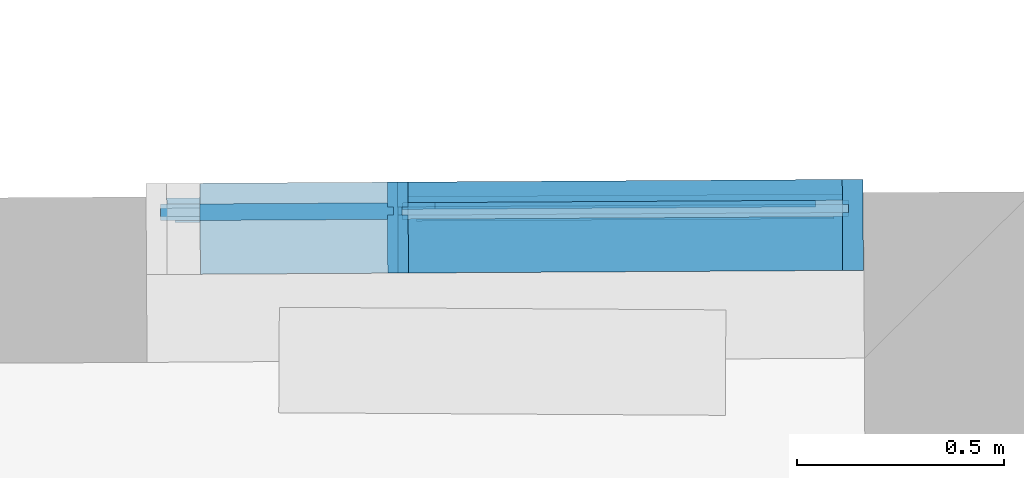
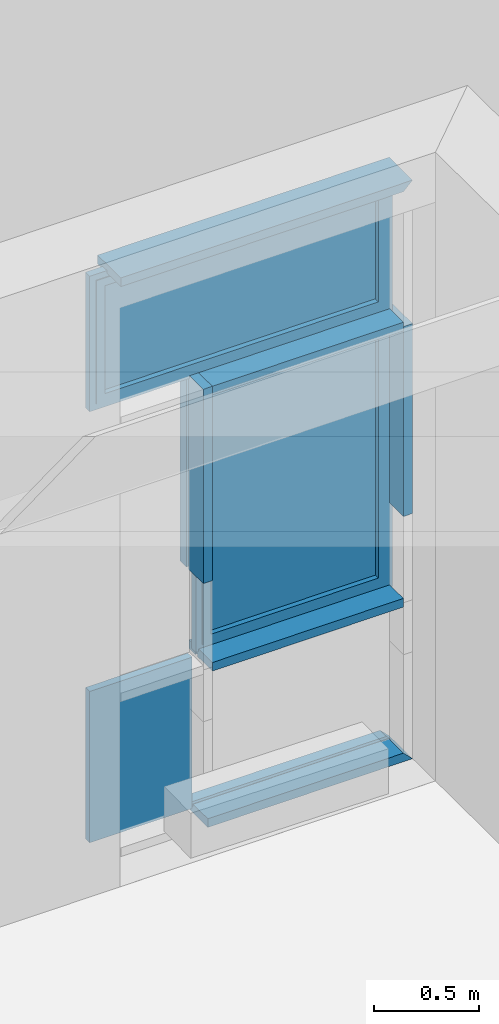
# One storey, part 134 of 196: 11 building element parts, 1 element without a shape of its own.
"""IFC2X3 building model written with IfcOpenShell, lengths in metres."""

import ifcopenshell
import ifcopenshell.guid

model = None  # the IFC model being written
_history = None  # IfcOwnerHistory: only IFC2X3 demands one
_inside = {}  # id of a spatial element -> (the spatial element, [elements in it])
_under = {}  # id of a project, library or spatial element -> (it, [spatial elements below it])
_declared = {}  # id of a project -> (the project, [libraries it declares])
_typed = {}  # id of a type object -> (the type object, [elements of that type])
_made_of = {}  # id of a material, layer set ... -> (it, [elements and type objects made of it])


def new_model(schema):
    """Start an empty IFC model of exactly this schema.

    Asked for "IFC4X3", IfcOpenShell would pick the latest addendum, in which some entities
    have other attributes; the version numbers below select the first issue.
    IFC2X3 requires an IfcOwnerHistory on every rooted entity: one is made here for all.
    """
    global model, _history
    if schema == "IFC4X3":
        model = ifcopenshell.file(schema_version=(4, 3, 0, 0))
    else:
        model = ifcopenshell.file(schema=schema)
    _inside.clear()
    _under.clear()
    _declared.clear()
    _typed.clear()
    _made_of.clear()
    _history = None
    if model.schema == "IFC2X3":
        org = make("IfcOrganization", Name="unknown")
        user = make(
            "IfcPersonAndOrganization",
            ThePerson=make("IfcPerson", FamilyName="unknown"),
            TheOrganization=org,
        )
        app = make(
            "IfcApplication",
            ApplicationDeveloper=org,
            Version="unknown",
            ApplicationFullName="unknown",
            ApplicationIdentifier="unknown",
        )
        _history = make(
            "IfcOwnerHistory",
            OwningUser=user,
            OwningApplication=app,
            ChangeAction="ADDED",
            CreationDate=0,
        )
    return model


def make(cls, **values):
    """One entity of the class cls with the attributes given. An attribute that is None is left unset."""
    return model.create_entity(
        cls, **{name: value for name, value in values.items() if value is not None}
    )


def entity(cls, *values):
    """Any entity or typed value of the class cls, its attributes in the order of the schema. None: left unset."""
    e = model.create_entity(cls)
    for i, value in enumerate(values):
        if value is not None:
            e[i] = value
    return e


def rooted(cls, **values):
    """An entity with a GlobalId (a new one), such as an element, a storey or a relation."""
    return make(cls, GlobalId=ifcopenshell.guid.new(), OwnerHistory=_history, **values)


def si_unit(unit_type, name, prefix=None):
    """IfcSIUnit, for example si_unit("LENGTHUNIT", "METRE", prefix="MILLI")."""
    return make("IfcSIUnit", UnitType=unit_type, Prefix=prefix, Name=name)


def converted_unit(unit_type, name, factor, base, dimensions=None, offset=None):
    """IfcConversionBasedUnit, such as the inch: factor (a typed value) times the base unit."""
    return make(
        "IfcConversionBasedUnit"
        if offset is None
        else "IfcConversionBasedUnitWithOffset",
        ConversionOffset=offset,
        Dimensions=None
        if dimensions is None
        else entity("IfcDimensionalExponents", *dimensions),
        UnitType=unit_type,
        Name=name,
        ConversionFactor=make(
            "IfcMeasureWithUnit", ValueComponent=factor, UnitComponent=base
        ),
    )


def derived_unit(unit_type, elements):
    """IfcDerivedUnit: a product of units, each with its exponent."""
    return make(
        "IfcDerivedUnit",
        Elements=[
            make("IfcDerivedUnitElement", Unit=unit, Exponent=power)
            for unit, power in elements
        ],
        UnitType=unit_type,
    )


def money_unit(currency):
    """IfcMonetaryUnit."""
    return make("IfcMonetaryUnit", Currency=currency)


def assignment(units):
    """IfcUnitAssignment: the units of a project."""
    return None if units is None else make("IfcUnitAssignment", Units=units)


def point(xyz):
    """IfcCartesianPoint."""
    return None if xyz is None else make("IfcCartesianPoint", Coordinates=xyz)


def direction(xyz):
    """IfcDirection."""
    return None if xyz is None else make("IfcDirection", DirectionRatios=xyz)


def frame(location, z_axis=None, x_axis=None):
    """IfcAxis2Placement3D, a coordinate frame: its origin and axes. An axis left out is left unset."""
    return make(
        "IfcAxis2Placement3D",
        Location=point(location),
        Axis=direction(z_axis),
        RefDirection=direction(x_axis),
    )


def origin_with_axes():
    """The frame at (0, 0, 0) with the z axis (0, 0, 1) and the x axis (1, 0, 0) written out."""
    return frame((0.0, 0.0, 0.0), z_axis=(0.0, 0.0, 1.0), x_axis=(1.0, 0.0, 0.0))


def place(relative_to, where):
    """IfcLocalPlacement: puts the frame where relative to a parent placement (None: the world)."""
    return make(
        "IfcLocalPlacement", PlacementRelTo=relative_to, RelativePlacement=where
    )


def context(
    kind, dimensions, precision=None, world=None, true_north=None, identifier=None
):
    """IfcGeometricRepresentationContext, for example the 3D "Model" context."""
    return make(
        "IfcGeometricRepresentationContext",
        ContextIdentifier=identifier,
        ContextType=kind,
        CoordinateSpaceDimension=dimensions,
        Precision=precision,
        WorldCoordinateSystem=world,
        TrueNorth=true_north,
    )


def subcontext(parent, identifier, kind, view, scale=None):
    """IfcGeometricRepresentationSubContext, for example "Body" below "Model"."""
    return make(
        "IfcGeometricRepresentationSubContext",
        ContextIdentifier=identifier,
        ContextType=kind,
        ParentContext=parent,
        TargetScale=scale,
        TargetView=view,
    )


def project(units=None, contexts=None):
    """IfcProject with its units and contexts."""
    return rooted(
        "IfcProject",
        Name="project",
        RepresentationContexts=contexts,
        UnitsInContext=assignment(units),
    )


def spatial(cls, under=None, at=None, **own):
    """A site, building, storey or space (cls), placed at a placement, below another one or the project."""
    s = rooted(cls, ObjectPlacement=at, **own)
    if under is not None:
        _under.setdefault(under.id(), (under, []))[1].append(s)
    return s


def faces_of(points, faces, orient=None, outer=None):
    """IfcFace entities. A face is a list of loops; a loop is a list of indices into points, from 0.

    orient and outer hold one flag for each loop. By default every Orientation is true, the
    first loop of a face is its IfcFaceOuterBound and the others are IfcFaceBound.
    """
    made = []
    for i, loops in enumerate(faces):
        bounds = []
        for j, loop in enumerate(loops):
            is_outer = j == 0 if outer is None else outer[i][j]
            bounds.append(
                make(
                    "IfcFaceOuterBound" if is_outer else "IfcFaceBound",
                    Bound=make("IfcPolyLoop", Polygon=[points[k] for k in loop]),
                    Orientation=True if orient is None else orient[i][j],
                )
            )
        made.append(make("IfcFace", Bounds=bounds))
    return made


def faceted_brep(points, faces, orient=None, outer=None, voids=None):
    """IfcFacetedBrep: a solid bounded by flat faces; with voids (closed shells), ...WithVoids."""
    shared = [point(p) for p in points]
    hull = make("IfcClosedShell", CfsFaces=faces_of(shared, faces, orient, outer))
    if voids is None:
        return make("IfcFacetedBrep", Outer=hull)
    return make(
        "IfcFacetedBrepWithVoids",
        Outer=hull,
        Voids=[
            make(cls, CfsFaces=faces_of(shared, fs, o, b)) for cls, fs, o, b in voids
        ],
    )


def shape(context_of_items, identifier, shape_type, items):
    """IfcShapeRepresentation: the items that make up one representation, for example the "Body"."""
    return make(
        "IfcShapeRepresentation",
        ContextOfItems=context_of_items,
        RepresentationIdentifier=identifier,
        RepresentationType=shape_type,
        Items=items,
    )


def material(Name=None, Category=None):
    """IfcMaterial."""
    return make("IfcMaterial", Name=Name, Category=Category)


def made_of(thing, what):
    """Note that an element or type object is made of a material, layer set ...; save() writes the relation."""
    if what is not None:
        _made_of.setdefault(what.id(), (what, []))[1].append(thing)
    return thing


def type_object(cls, material=None, **own):
    """A type object (cls), such as IfcWallType, which elements share."""
    return made_of(rooted(cls, **own), material)


def element(
    cls,
    number,
    at=None,
    inside=None,
    cuts=None,
    type_object=None,
    material=None,
    context=None,
    identifier="Body",
    shape_type=None,
    held_by="IfcProductDefinitionShape",
    body=None,
    shapes=None,
    **own,
):
    """One element of the class cls, such as IfcWall. Its Tag is "e" and its number.

    at: its placement. inside: the storey or other place that contains it. cuts: it is an
    opening in that element (IfcRelVoidsElement). A single representation is given by context,
    identifier, shape_type and body (its items); several are given by shapes. held_by: the class
    of the entity that holds the representations. save() writes the other relations.
    """
    e = rooted(cls, Tag="e%d" % number, ObjectPlacement=at, **own)
    if body is not None:
        shapes = [shape(context, identifier, shape_type, body)]
    if shapes is not None:
        e.Representation = make(held_by, Representations=shapes)
    if inside is not None:
        _inside.setdefault(inside.id(), (inside, []))[1].append(e)
    if cuts is not None:
        rooted(
            "IfcRelVoidsElement", RelatingBuildingElement=cuts, RelatedOpeningElement=e
        )
    if type_object is not None:
        _typed.setdefault(type_object.id(), (type_object, []))[1].append(e)
    return made_of(e, material)


def aggregate(whole, parts):
    """IfcRelAggregates: a whole, such as a stair, and the parts it consists of."""
    return rooted("IfcRelAggregates", RelatingObject=whole, RelatedObjects=parts)


def save(model, path):
    """Write the relations noted so far, then the file.

    IfcRelAggregates (storeys below a building ...), IfcRelContainedInSpatialStructure (elements
    in a storey), IfcRelDefinesByType, IfcRelAssociatesMaterial and IfcRelDeclares: one each for
    every whole, place, type object, material and project.
    """
    for whole, parts in _under.values():
        aggregate(whole, parts)
    for where, things in _inside.values():
        rooted(
            "IfcRelContainedInSpatialStructure",
            RelatedElements=things,
            RelatingStructure=where,
        )
    for kind, things in _typed.values():
        rooted("IfcRelDefinesByType", RelatedObjects=things, RelatingType=kind)
    for what, things in _made_of.values():
        rooted("IfcRelAssociatesMaterial", RelatedObjects=things, RelatingMaterial=what)
    for by, libraries in _declared.values():
        rooted("IfcRelDeclares", RelatingContext=by, RelatedDefinitions=libraries)
    model.write(path)


model = new_model("IFC2X3")

# Units and contexts
model_context = context("Model", 3, precision=1e-05, world=origin_with_axes(), true_north=direction((0.0, 1.0)))
body_context = subcontext(model_context, "Body", "Model", "MODEL_VIEW")
ifc_project = project(units=[si_unit("LENGTHUNIT", "METRE"), si_unit("AREAUNIT", "SQUARE_METRE"), si_unit("VOLUMEUNIT", "CUBIC_METRE"), converted_unit("PLANEANGLEUNIT", "DEGREE", entity("IfcPlaneAngleMeasure", 0.0174532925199), si_unit("PLANEANGLEUNIT", "RADIAN"), dimensions=[0, 0, 0, 0, 0, 0, 0]), money_unit("EUR"), converted_unit("TIMEUNIT", "Year", entity("IfcTimeMeasure", 31556926.0), si_unit("TIMEUNIT", "SECOND"), dimensions=[0, 0, 1, 0, 0, 0, 0]), si_unit("MASSUNIT", "GRAM", prefix="KILO"), si_unit("THERMODYNAMICTEMPERATUREUNIT", "DEGREE_CELSIUS"), si_unit("LUMINOUSINTENSITYUNIT", "LUMEN"), si_unit("ENERGYUNIT", "JOULE", prefix="MEGA"), derived_unit("THERMALCONDUCTANCEUNIT", [(si_unit("POWERUNIT", "WATT"), 1), (si_unit("LENGTHUNIT", "METRE"), -1), (si_unit("THERMODYNAMICTEMPERATUREUNIT", "KELVIN"), -1)]), derived_unit("SPECIFICHEATCAPACITYUNIT", [(si_unit("ENERGYUNIT", "JOULE"), 1), (si_unit("MASSUNIT", "GRAM", prefix="KILO"), -1), (si_unit("THERMODYNAMICTEMPERATUREUNIT", "KELVIN"), -1)]), derived_unit("MASSDENSITYUNIT", [(si_unit("MASSUNIT", "GRAM", prefix="KILO"), 1), (si_unit("VOLUMEUNIT", "CUBIC_METRE"), -1)])], contexts=[model_context])

# Site, building, storey
site_placement = place(None, origin_with_axes())
site = spatial("IfcSite", under=ifc_project, at=site_placement, Name="Gelände", CompositionType="ELEMENT")
building_placement = place(site_placement, origin_with_axes())
building = spatial("IfcBuilding", under=site, at=building_placement, Name="Gebäude", CompositionType="ELEMENT")
storey_placement = place(building_placement, frame((0.0, 0.0, -3.0), z_axis=(0.0, 0.0, 1.0), x_axis=(1.0, 0.0, 0.0)))
storey = spatial("IfcBuildingStorey", under=building, at=storey_placement, Name="KELLERGESCHOSS", CompositionType="ELEMENT", Elevation=-3.0)

# Proxy, building element parts
building_element_proxy_type = type_object("IfcBuildingElementProxyType", Name="Fassadentyp", PredefinedType="NOTDEFINED")
proxy_placement = place(storey_placement, frame((-16.6085593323, 53.9801493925, 0.421025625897), z_axis=(0.0, 0.0, 1.0), x_axis=(1.0, 0.0, 0.0)))
proxy = element("IfcBuildingElementProxy", 1, at=proxy_placement, inside=storey, type_object=building_element_proxy_type, Name="Fassade-002")
ifc_material_1 = material(Name="53_Metall, Aluminium")
building_element_part_1_placement = place(proxy_placement, origin_with_axes())
building_element_part_1 = element("IfcBuildingElementPart", 2, at=building_element_part_1_placement, material=ifc_material_1, Name="53_Metall, Aluminium", context=body_context, shape_type="Brep", body=[
    faceted_brep([(0.51229405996, 0.0330269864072, 0.945851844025), (-0.537648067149, 0.0268242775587, 0.945851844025), (-0.53767760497, 0.0318241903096, 0.945851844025), (0.512264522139, 0.0380268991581, 0.945851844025), (0.467294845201, 0.0327611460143, 0.990851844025), (-0.49264885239, 0.0270901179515, 0.990851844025), (-0.492678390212, 0.0320900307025, 0.990851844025), (0.46726530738, 0.0377610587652, 0.990851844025)], [[[0, 1, 2, 3]], [[0, 4, 5, 1]], [[1, 5, 6, 2]], [[3, 2, 6, 7]], [[4, 0, 3, 7]], [[5, 4, 7, 6]]]),
    faceted_brep([(-0.537648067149, 0.0268242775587, 0.945851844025), (-0.537648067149, 0.0268242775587, 2.49499997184), (-0.53767760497, 0.0318241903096, 2.49499997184), (-0.53767760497, 0.0318241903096, 0.945851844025), (-0.49264885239, 0.0270901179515, 0.990851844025), (-0.49264885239, 0.0270901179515, 2.44999997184), (-0.492678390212, 0.0320900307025, 2.44999997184), (-0.492678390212, 0.0320900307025, 0.990851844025)], [[[0, 1, 2, 3]], [[0, 4, 5, 1]], [[1, 5, 6, 2]], [[3, 2, 6, 7]], [[4, 0, 3, 7]], [[5, 4, 7, 6]]]),
    faceted_brep([(0.51229405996, 0.0330269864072, 2.49499997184), (0.467294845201, 0.0327611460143, 2.44999997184), (0.46726530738, 0.0377610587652, 2.44999997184), (0.512264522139, 0.0380268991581, 2.49499997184), (-0.537648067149, 0.0268242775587, 2.49499997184), (-0.49264885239, 0.0270901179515, 2.44999997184), (-0.492678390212, 0.0320900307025, 2.44999997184), (-0.53767760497, 0.0318241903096, 2.49499997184)], [[[0, 1, 2, 3]], [[0, 4, 5, 1]], [[1, 5, 6, 2]], [[3, 2, 6, 7]], [[4, 0, 3, 7]], [[5, 4, 7, 6]]]),
    faceted_brep([(0.51229405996, 0.0330269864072, 0.945851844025), (0.467294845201, 0.0327611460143, 0.990851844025), (0.46726530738, 0.0377610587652, 0.990851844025), (0.512264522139, 0.0380268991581, 0.945851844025), (0.51229405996, 0.0330269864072, 2.49499997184), (0.467294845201, 0.0327611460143, 2.44999997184), (0.46726530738, 0.0377610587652, 2.44999997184), (0.512264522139, 0.0380268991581, 2.49499997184)], [[[0, 1, 2, 3]], [[0, 4, 5, 1]], [[1, 5, 6, 2]], [[3, 2, 6, 7]], [[4, 0, 3, 7]], [[5, 4, 7, 6]]]),
    faceted_brep([(0.512589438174, -0.0169721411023, 0.945851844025), (-0.537352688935, -0.0231748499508, 0.945851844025), (-0.537648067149, 0.0268242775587, 0.945851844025), (0.51229405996, 0.0330269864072, 0.945851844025), (0.49258978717, -0.017090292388, 0.965851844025), (-0.517353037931, -0.0230566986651, 0.965851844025), (-0.517648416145, 0.0269424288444, 0.965851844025), (0.492294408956, 0.0329088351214, 0.965851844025)], [[[0, 1, 2, 3]], [[0, 4, 5, 1]], [[1, 5, 6, 2]], [[3, 2, 6, 7]], [[4, 0, 3, 7]], [[5, 4, 7, 6]]]),
    faceted_brep([(-0.537352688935, -0.0231748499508, 0.945851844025), (-0.537352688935, -0.0231748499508, 2.49499997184), (-0.537648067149, 0.0268242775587, 2.49499997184), (-0.537648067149, 0.0268242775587, 0.945851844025), (-0.517353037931, -0.0230566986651, 0.965851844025), (-0.517353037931, -0.0230566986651, 2.47499997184), (-0.517648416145, 0.0269424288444, 2.47499997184), (-0.517648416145, 0.0269424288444, 0.965851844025)], [[[0, 1, 2, 3]], [[0, 4, 5, 1]], [[1, 5, 6, 2]], [[3, 2, 6, 7]], [[4, 0, 3, 7]], [[5, 4, 7, 6]]]),
    faceted_brep([(0.512589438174, -0.0169721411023, 2.49499997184), (0.49258978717, -0.017090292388, 2.47499997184), (0.492294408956, 0.0329088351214, 2.47499997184), (0.51229405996, 0.0330269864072, 2.49499997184), (-0.537352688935, -0.0231748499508, 2.49499997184), (-0.517353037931, -0.0230566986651, 2.47499997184), (-0.517648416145, 0.0269424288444, 2.47499997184), (-0.537648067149, 0.0268242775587, 2.49499997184)], [[[0, 1, 2, 3]], [[0, 4, 5, 1]], [[1, 5, 6, 2]], [[3, 2, 6, 7]], [[4, 0, 3, 7]], [[5, 4, 7, 6]]]),
    faceted_brep([(0.512589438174, -0.0169721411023, 0.945851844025), (0.49258978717, -0.017090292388, 0.965851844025), (0.492294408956, 0.0329088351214, 0.965851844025), (0.51229405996, 0.0330269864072, 0.945851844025), (0.512589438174, -0.0169721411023, 2.49499997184), (0.49258978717, -0.017090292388, 2.47499997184), (0.492294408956, 0.0329088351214, 2.47499997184), (0.51229405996, 0.0330269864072, 2.49499997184)], [[[0, 1, 2, 3]], [[0, 4, 5, 1]], [[1, 5, 6, 2]], [[3, 2, 6, 7]], [[4, 0, 3, 7]], [[5, 4, 7, 6]]]),
    faceted_brep([(0.527589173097, -0.0168835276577, 0.930851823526), (-0.552352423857, -0.0232634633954, 0.930851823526), (-0.552588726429, 0.0167358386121, 0.930851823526), (0.527352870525, 0.0231157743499, 0.930851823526), (0.512589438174, -0.0169721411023, 0.945851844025), (-0.537352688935, -0.0231748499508, 0.945851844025), (-0.537588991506, 0.0168244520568, 0.945851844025), (0.512353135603, 0.0230271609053, 0.945851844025)], [[[0, 1, 2, 3]], [[0, 4, 5, 1]], [[1, 5, 6, 2]], [[3, 2, 6, 7]], [[4, 0, 3, 7]], [[5, 4, 7, 6]]]),
    faceted_brep([(-0.552352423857, -0.0232634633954, 0.930851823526), (-0.552352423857, -0.0232634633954, 2.50999999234), (-0.552588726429, 0.0167358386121, 2.50999999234), (-0.552588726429, 0.0167358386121, 0.930851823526), (-0.537352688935, -0.0231748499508, 0.945851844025), (-0.537352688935, -0.0231748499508, 2.49499997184), (-0.537588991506, 0.0168244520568, 2.49499997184), (-0.537588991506, 0.0168244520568, 0.945851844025)], [[[0, 1, 2, 3]], [[0, 4, 5, 1]], [[1, 5, 6, 2]], [[3, 2, 6, 7]], [[4, 0, 3, 7]], [[5, 4, 7, 6]]]),
    faceted_brep([(-0.552352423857, -0.0232634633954, 2.50999999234), (0.527589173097, -0.0168835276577, 2.50999999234), (0.527352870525, 0.0231157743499, 2.50999999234), (-0.552588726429, 0.0167358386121, 2.50999999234), (-0.537352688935, -0.0231748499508, 2.49499997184), (0.512589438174, -0.0169721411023, 2.49499997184), (0.512353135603, 0.0230271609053, 2.49499997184), (-0.537588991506, 0.0168244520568, 2.49499997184)], [[[0, 1, 2, 3]], [[0, 4, 5, 1]], [[1, 5, 6, 2]], [[3, 2, 6, 7]], [[4, 0, 3, 7]], [[5, 4, 7, 6]]]),
    faceted_brep([(0.527589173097, -0.0168835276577, 2.50999999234), (0.527589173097, -0.0168835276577, 0.930851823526), (0.527352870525, 0.0231157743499, 0.930851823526), (0.527352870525, 0.0231157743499, 2.50999999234), (0.512589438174, -0.0169721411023, 2.49499997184), (0.512589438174, -0.0169721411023, 0.945851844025), (0.512353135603, 0.0230271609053, 0.945851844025), (0.512353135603, 0.0230271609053, 2.49499997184)], [[[0, 1, 2, 3]], [[0, 4, 5, 1]], [[1, 5, 6, 2]], [[3, 2, 6, 7]], [[4, 0, 3, 7]], [[5, 4, 7, 6]]]),
    faceted_brep([(0.447295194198, 0.0326429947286, 1.01085184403), (0.447620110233, -0.0223560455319, 1.01085184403), (0.447620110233, -0.0223560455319, 2.42999997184), (0.447295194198, 0.0326429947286, 2.42999997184), (0.492294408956, 0.0329088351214, 0.965851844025), (0.492619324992, -0.022090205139, 0.965851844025), (0.492619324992, -0.022090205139, 2.47499997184), (0.492294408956, 0.0329088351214, 2.47499997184)], [[[0, 1, 2, 3]], [[4, 5, 1, 0]], [[1, 5, 6, 2]], [[3, 2, 6, 7]], [[0, 3, 7, 4]], [[7, 6, 5, 4]]]),
    faceted_brep([(-0.517648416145, 0.0269424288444, 0.965851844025), (-0.517323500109, -0.0280566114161, 0.965851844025), (-0.517323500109, -0.0280566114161, 2.47499997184), (-0.517648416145, 0.0269424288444, 2.47499997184), (-0.472649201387, 0.0272082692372, 1.01085184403), (-0.472324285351, -0.0277907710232, 1.01085184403), (-0.472324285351, -0.0277907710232, 2.42999997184), (-0.472649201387, 0.0272082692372, 2.42999997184)], [[[0, 1, 2, 3]], [[4, 5, 1, 0]], [[1, 5, 6, 2]], [[3, 2, 6, 7]], [[0, 3, 7, 4]], [[7, 6, 5, 4]]]),
    faceted_brep([(-0.517648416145, 0.0269424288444, 0.965851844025), (-0.517323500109, -0.0280566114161, 0.965851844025), (-0.472324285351, -0.0277907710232, 1.01085184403), (-0.472649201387, 0.0272082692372, 1.01085184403), (0.492294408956, 0.0329088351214, 0.965851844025), (0.492619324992, -0.022090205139, 0.965851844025), (0.447620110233, -0.0223560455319, 1.01085184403), (0.447295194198, 0.0326429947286, 1.01085184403)], [[[0, 1, 2, 3]], [[4, 5, 1, 0]], [[1, 5, 6, 2]], [[3, 2, 6, 7]], [[0, 3, 7, 4]], [[7, 6, 5, 4]]]),
    faceted_brep([(0.492294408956, 0.0329088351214, 2.47499997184), (0.492619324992, -0.022090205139, 2.47499997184), (0.447620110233, -0.0223560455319, 2.42999997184), (0.447295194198, 0.0326429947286, 2.42999997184), (-0.517648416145, 0.0269424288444, 2.47499997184), (-0.517323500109, -0.0280566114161, 2.47499997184), (-0.472324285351, -0.0277907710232, 2.42999997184), (-0.472649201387, 0.0272082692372, 2.42999997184)], [[[0, 1, 2, 3]], [[4, 5, 1, 0]], [[1, 5, 6, 2]], [[3, 2, 6, 7]], [[0, 3, 7, 4]], [[7, 6, 5, 4]]]),
])
ifc_material_2 = material(Name="45_Glas, Normalglas")
building_element_part_2_placement = place(proxy_placement, origin_with_axes())
building_element_part_2 = element("IfcBuildingElementPart", 3, at=building_element_part_2_placement, material=ifc_material_2, Name="45_Glas, Normalglas", context=body_context, shape_type="Brep", body=[
    faceted_brep([(0.44735426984, 0.0226431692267, 1.01085184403), (0.447448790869, 0.00664344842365, 1.01085184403), (-0.472495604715, 0.00120872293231, 1.01085184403), (-0.472590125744, 0.0172084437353, 1.01085184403), (0.44735426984, 0.0226431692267, 2.42999997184), (0.447448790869, 0.00664344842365, 2.42999997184), (-0.472495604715, 0.00120872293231, 2.42999997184), (-0.472590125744, 0.0172084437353, 2.42999997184)], [[[0, 1, 2, 3]], [[4, 5, 1, 0]], [[1, 5, 6, 2]], [[3, 2, 6, 7]], [[0, 3, 7, 4]], [[7, 6, 5, 4]]]),
])
building_element_part_3_placement = place(proxy_placement, origin_with_axes())
building_element_part_3 = element("IfcBuildingElementPart", 4, at=building_element_part_3_placement, material=ifc_material_2, Name="45_Glas, Normalglas", context=body_context, shape_type="Brep", body=[
    faceted_brep([(-1.13571819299, -0.0267097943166, 0.910851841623), (-1.04044735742, -0.0261469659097, 0.910851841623), (-1.04068365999, 0.0138523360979, 0.910851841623), (-1.13595449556, 0.013289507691, 0.910851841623), (-1.13571819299, -0.0267097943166, 0.619999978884), (-1.13571819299, -0.0267097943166, 0.0349999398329), (-1.04044735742, -0.0261469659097, 0.0349999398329), (-0.572352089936, -0.0233816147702, 0.0349999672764), (-0.572352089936, -0.0233816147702, 0.619999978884), (-0.572352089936, -0.0233816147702, 0.910851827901), (-0.572588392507, 0.0166176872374, 0.910851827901), (-0.572588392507, 0.0166176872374, 0.619999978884), (-0.572588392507, 0.0166176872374, 0.0349999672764), (-1.04068365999, 0.0138523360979, 0.0349999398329), (-1.13595449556, 0.013289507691, 0.0349999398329), (-1.13595449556, 0.013289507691, 0.619999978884)], [[[0, 1, 2, 3]], [[0, 4, 5, 6, 7, 8, 9, 1]], [[1, 9, 10, 2]], [[3, 2, 10, 11, 12, 13, 14, 15]], [[4, 0, 3, 15]], [[5, 4, 15, 14]], [[6, 5, 14, 13]], [[7, 6, 13, 12]], [[8, 7, 12, 11]], [[9, 8, 11, 10]]]),
])
building_element_part_4_placement = place(proxy_placement, origin_with_axes())
building_element_part_4 = element("IfcBuildingElementPart", 5, at=building_element_part_4_placement, material=ifc_material_1, Name="53_Metall, Aluminium", context=body_context, shape_type="Brep", body=[
    faceted_brep([(0.512294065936, 0.0330269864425, 2.54499999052), (-1.12101384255, 0.0233779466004, 2.54499999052), (-1.12104338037, 0.0283778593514, 2.54499999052), (0.512264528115, 0.0380268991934, 2.54499999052), (0.467294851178, 0.0327611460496, 2.58999999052), (-1.07601462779, 0.0236437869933, 2.58999999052), (-1.07604416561, 0.0286436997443, 2.58999999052), (0.467265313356, 0.0377610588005, 2.58999999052)], [[[0, 1, 2, 3]], [[0, 4, 5, 1]], [[1, 5, 6, 2]], [[3, 2, 6, 7]], [[4, 0, 3, 7]], [[5, 4, 7, 6]]]),
    faceted_brep([(-1.12101384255, 0.0233779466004, 2.54499999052), (-1.12101384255, 0.0233779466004, 3.29999988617), (-1.12104338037, 0.0283778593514, 3.29999988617), (-1.12104338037, 0.0283778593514, 2.54499999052), (-1.07601462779, 0.0236437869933, 2.58999999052), (-1.07601462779, 0.0236437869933, 3.25499988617), (-1.07604416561, 0.0286436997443, 3.25499988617), (-1.07604416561, 0.0286436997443, 2.58999999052)], [[[0, 1, 2, 3]], [[0, 4, 5, 1]], [[1, 5, 6, 2]], [[3, 2, 6, 7]], [[4, 0, 3, 7]], [[5, 4, 7, 6]]]),
    faceted_brep([(0.512294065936, 0.0330269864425, 3.29999988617), (0.467294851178, 0.0327611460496, 3.25499988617), (0.467265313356, 0.0377610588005, 3.25499988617), (0.512264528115, 0.0380268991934, 3.29999988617), (-1.12101384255, 0.0233779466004, 3.29999988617), (-1.07601462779, 0.0236437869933, 3.25499988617), (-1.07604416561, 0.0286436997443, 3.25499988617), (-1.12104338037, 0.0283778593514, 3.29999988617)], [[[0, 1, 2, 3]], [[0, 4, 5, 1]], [[1, 5, 6, 2]], [[3, 2, 6, 7]], [[4, 0, 3, 7]], [[5, 4, 7, 6]]]),
    faceted_brep([(0.512294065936, 0.0330269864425, 2.54499999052), (0.467294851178, 0.0327611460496, 2.58999999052), (0.467265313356, 0.0377610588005, 2.58999999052), (0.512264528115, 0.0380268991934, 2.54499999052), (0.512294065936, 0.0330269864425, 3.29999988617), (0.467294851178, 0.0327611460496, 3.25499988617), (0.467265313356, 0.0377610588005, 3.25499988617), (0.512264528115, 0.0380268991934, 3.29999988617)], [[[0, 1, 2, 3]], [[0, 4, 5, 1]], [[1, 5, 6, 2]], [[3, 2, 6, 7]], [[4, 0, 3, 7]], [[5, 4, 7, 6]]]),
    faceted_brep([(0.512589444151, -0.016972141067, 2.54499999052), (-1.12071846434, -0.0266211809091, 2.54499999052), (-1.12101384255, 0.0233779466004, 2.54499999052), (0.512294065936, 0.0330269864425, 2.54499999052), (0.492589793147, -0.0170902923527, 2.56499999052), (-1.10071881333, -0.0265030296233, 2.56499999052), (-1.10101419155, 0.0234960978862, 2.56499999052), (0.492294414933, 0.0329088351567, 2.56499999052)], [[[0, 1, 2, 3]], [[0, 4, 5, 1]], [[1, 5, 6, 2]], [[3, 2, 6, 7]], [[4, 0, 3, 7]], [[5, 4, 7, 6]]]),
    faceted_brep([(-1.12071846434, -0.0266211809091, 2.54499999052), (-1.12071846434, -0.0266211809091, 3.29999988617), (-1.12101384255, 0.0233779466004, 3.29999988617), (-1.12101384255, 0.0233779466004, 2.54499999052), (-1.10071881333, -0.0265030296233, 2.56499999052), (-1.10071881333, -0.0265030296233, 3.27999988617), (-1.10101419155, 0.0234960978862, 3.27999988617), (-1.10101419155, 0.0234960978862, 2.56499999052)], [[[0, 1, 2, 3]], [[0, 4, 5, 1]], [[1, 5, 6, 2]], [[3, 2, 6, 7]], [[4, 0, 3, 7]], [[5, 4, 7, 6]]]),
    faceted_brep([(0.512589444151, -0.016972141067, 3.29999988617), (0.492589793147, -0.0170902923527, 3.27999988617), (0.492294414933, 0.0329088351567, 3.27999988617), (0.512294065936, 0.0330269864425, 3.29999988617), (-1.12071846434, -0.0266211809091, 3.29999988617), (-1.10071881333, -0.0265030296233, 3.27999988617), (-1.10101419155, 0.0234960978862, 3.27999988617), (-1.12101384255, 0.0233779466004, 3.29999988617)], [[[0, 1, 2, 3]], [[0, 4, 5, 1]], [[1, 5, 6, 2]], [[3, 2, 6, 7]], [[4, 0, 3, 7]], [[5, 4, 7, 6]]]),
    faceted_brep([(0.512589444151, -0.016972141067, 2.54499999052), (0.492589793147, -0.0170902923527, 2.56499999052), (0.492294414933, 0.0329088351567, 2.56499999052), (0.512294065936, 0.0330269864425, 2.54499999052), (0.512589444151, -0.016972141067, 3.29999988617), (0.492589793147, -0.0170902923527, 3.27999988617), (0.492294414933, 0.0329088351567, 3.27999988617), (0.512294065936, 0.0330269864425, 3.29999988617)], [[[0, 1, 2, 3]], [[0, 4, 5, 1]], [[1, 5, 6, 2]], [[3, 2, 6, 7]], [[4, 0, 3, 7]], [[5, 4, 7, 6]]]),
    faceted_brep([(0.52758917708, -0.0168835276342, 2.52999997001), (-1.13571819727, -0.0267097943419, 2.52999997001), (-1.13595449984, 0.0132895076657, 2.52999997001), (0.527352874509, 0.0231157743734, 2.52999997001), (0.512589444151, -0.016972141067, 2.54499999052), (-1.12071846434, -0.0266211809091, 2.54499999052), (-1.12095476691, 0.0133781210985, 2.54499999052), (0.512353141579, 0.0230271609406, 2.54499999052)], [[[0, 1, 2, 3]], [[0, 4, 5, 1]], [[1, 5, 6, 2]], [[3, 2, 6, 7]], [[4, 0, 3, 7]], [[5, 4, 7, 6]]]),
    faceted_brep([(-1.13571819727, -0.0267097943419, 2.52999997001), (-1.13571819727, -0.0267097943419, 3.31499988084), (-1.13595449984, 0.0132895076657, 3.31499988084), (-1.13595449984, 0.0132895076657, 2.52999997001), (-1.12071846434, -0.0266211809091, 2.54499999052), (-1.12071846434, -0.0266211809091, 3.29999988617), (-1.12095476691, 0.0133781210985, 3.29999988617), (-1.12095476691, 0.0133781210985, 2.54499999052)], [[[0, 1, 2, 3]], [[0, 4, 5, 1]], [[1, 5, 6, 2]], [[3, 2, 6, 7]], [[4, 0, 3, 7]], [[5, 4, 7, 6]]]),
    faceted_brep([(-1.13571819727, -0.0267097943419, 3.31499988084), (0.52758917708, -0.0168835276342, 3.31499988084), (0.527352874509, 0.0231157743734, 3.31499988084), (-1.13595449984, 0.0132895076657, 3.31499988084), (-1.12071846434, -0.0266211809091, 3.29999988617), (0.512589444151, -0.016972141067, 3.29999988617), (0.512353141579, 0.0230271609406, 3.29999988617), (-1.12095476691, 0.0133781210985, 3.29999988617)], [[[0, 1, 2, 3]], [[0, 4, 5, 1]], [[1, 5, 6, 2]], [[3, 2, 6, 7]], [[4, 0, 3, 7]], [[5, 4, 7, 6]]]),
    faceted_brep([(0.52758917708, -0.0168835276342, 3.31499988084), (0.52758917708, -0.0168835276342, 2.52999997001), (0.527352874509, 0.0231157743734, 2.52999997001), (0.527352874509, 0.0231157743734, 3.31499988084), (0.512589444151, -0.016972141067, 3.29999988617), (0.512589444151, -0.016972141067, 2.54499999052), (0.512353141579, 0.0230271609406, 2.54499999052), (0.512353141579, 0.0230271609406, 3.29999988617)], [[[0, 1, 2, 3]], [[0, 4, 5, 1]], [[1, 5, 6, 2]], [[3, 2, 6, 7]], [[4, 0, 3, 7]], [[5, 4, 7, 6]]]),
    faceted_brep([(0.447295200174, 0.0326429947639, 2.60999999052), (0.44762011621, -0.0223560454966, 2.60999999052), (0.44762011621, -0.0223560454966, 3.23499988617), (0.447295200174, 0.0326429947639, 3.23499988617), (0.492294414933, 0.0329088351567, 2.56499999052), (0.492619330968, -0.0220902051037, 2.56499999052), (0.492619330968, -0.0220902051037, 3.27999988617), (0.492294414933, 0.0329088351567, 3.27999988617)], [[[0, 1, 2, 3]], [[4, 5, 1, 0]], [[1, 5, 6, 2]], [[3, 2, 6, 7]], [[0, 3, 7, 4]], [[7, 6, 5, 4]]]),
    faceted_brep([(-1.10101419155, 0.0234960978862, 2.56499999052), (-1.10068927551, -0.0315029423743, 2.56499999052), (-1.10068927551, -0.0315029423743, 3.27999988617), (-1.10101419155, 0.0234960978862, 3.27999988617), (-1.05601497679, 0.023761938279, 2.60999999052), (-1.05569006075, -0.0312371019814, 2.60999999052), (-1.05569006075, -0.0312371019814, 3.23499988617), (-1.05601497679, 0.023761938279, 3.23499988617)], [[[0, 1, 2, 3]], [[4, 5, 1, 0]], [[1, 5, 6, 2]], [[3, 2, 6, 7]], [[0, 3, 7, 4]], [[7, 6, 5, 4]]]),
    faceted_brep([(-1.10101419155, 0.0234960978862, 2.56499999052), (-1.10068927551, -0.0315029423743, 2.56499999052), (-1.05569006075, -0.0312371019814, 2.60999999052), (-1.05601497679, 0.023761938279, 2.60999999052), (0.492294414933, 0.0329088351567, 2.56499999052), (0.492619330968, -0.0220902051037, 2.56499999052), (0.44762011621, -0.0223560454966, 2.60999999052), (0.447295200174, 0.0326429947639, 2.60999999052)], [[[0, 1, 2, 3]], [[4, 5, 1, 0]], [[1, 5, 6, 2]], [[3, 2, 6, 7]], [[0, 3, 7, 4]], [[7, 6, 5, 4]]]),
    faceted_brep([(0.492294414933, 0.0329088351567, 3.27999988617), (0.492619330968, -0.0220902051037, 3.27999988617), (0.44762011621, -0.0223560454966, 3.23499988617), (0.447295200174, 0.0326429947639, 3.23499988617), (-1.10101419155, 0.0234960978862, 3.27999988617), (-1.10068927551, -0.0315029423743, 3.27999988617), (-1.05569006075, -0.0312371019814, 3.23499988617), (-1.05601497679, 0.023761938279, 3.23499988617)], [[[0, 1, 2, 3]], [[4, 5, 1, 0]], [[1, 5, 6, 2]], [[3, 2, 6, 7]], [[0, 3, 7, 4]], [[7, 6, 5, 4]]]),
])
building_element_part_5_placement = place(proxy_placement, origin_with_axes())
building_element_part_5 = element("IfcBuildingElementPart", 6, at=building_element_part_5_placement, material=ifc_material_2, Name="45_Glas, Normalglas", context=body_context, shape_type="Brep", body=[
    faceted_brep([(0.447354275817, 0.022643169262, 2.60999999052), (0.447448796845, 0.00664344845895, 2.60999999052), (-1.05586138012, -0.00223760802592, 2.60999999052), (-1.05595590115, 0.0137621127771, 2.60999999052), (0.447354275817, 0.022643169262, 3.23499988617), (0.447448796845, 0.00664344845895, 3.23499988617), (-1.05586138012, -0.00223760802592, 3.23499988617), (-1.05595590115, 0.0137621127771, 3.23499988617)], [[[0, 1, 2, 3]], [[4, 5, 1, 0]], [[1, 5, 6, 2]], [[3, 2, 6, 7]], [[0, 3, 7, 4]], [[7, 6, 5, 4]]]),
])
building_element_part_6_placement = place(proxy_placement, origin_with_axes())
building_element_part_6 = element("IfcBuildingElementPart", 7, at=building_element_part_6_placement, material=ifc_material_1, Name="53_Metall, Aluminium", context=body_context, shape_type="Brep", body=[
    faceted_brep([(-0.537411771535, -0.01317502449, 0.910851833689), (-0.537411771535, -0.01317502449, 0.895851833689), (-0.536584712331, -0.153172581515, 0.895851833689), (-0.536584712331, -0.153172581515, 0.945851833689), (-0.537411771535, -0.01317502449, 0.945851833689), (-0.537411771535, -0.01317502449, 0.930851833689), (-0.53752992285, 0.00682462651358, 0.930851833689), (-0.53752992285, 0.00682462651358, 0.945851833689), (-0.537884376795, 0.0668235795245, 0.945851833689), (-0.537884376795, 0.0668235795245, 0.895851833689), (-0.53752992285, 0.00682462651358, 0.895851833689), (-0.53752992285, 0.00682462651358, 0.910851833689), (0.512530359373, -0.00697231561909, 0.910851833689), (0.512530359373, -0.00697231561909, 0.895851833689), (0.513357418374, -0.146969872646, 0.895851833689), (0.513357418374, -0.146969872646, 0.945851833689), (0.512530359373, -0.00697231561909, 0.945851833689), (0.512530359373, -0.00697231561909, 0.930851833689), (0.512412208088, 0.0130273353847, 0.930851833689), (0.512412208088, 0.0130273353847, 0.945851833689), (0.512057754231, 0.0730262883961, 0.945851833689), (0.512057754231, 0.0730262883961, 0.895851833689), (0.512412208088, 0.0130273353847, 0.895851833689), (0.512412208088, 0.0130273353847, 0.910851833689)], [[[0, 1, 2, 3, 4, 5, 6, 7, 8, 9, 10, 11]], [[1, 0, 12, 13]], [[1, 13, 14, 2]], [[2, 14, 15, 3]], [[4, 3, 15, 16]], [[4, 16, 17, 5]], [[5, 17, 18, 6]], [[7, 6, 18, 19]], [[19, 20, 8, 7]], [[8, 20, 21, 9]], [[22, 10, 9, 21]], [[11, 10, 22, 23]], [[0, 11, 23, 12]], [[23, 22, 21, 20, 19, 18, 17, 16, 15, 14, 13, 12]]]),
])
building_element_part_7_placement = place(proxy_placement, origin_with_axes())
building_element_part_7 = element("IfcBuildingElementPart", 8, at=building_element_part_7_placement, material=ifc_material_1, Name="53_Metall, Aluminium", context=body_context, shape_type="Brep", body=[
    faceted_brep([(-0.537411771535, -0.01317502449, 2.50999998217), (-0.537411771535, -0.01317502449, 2.49499998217), (-0.536584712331, -0.153172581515, 2.49499998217), (-0.536584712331, -0.153172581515, 2.54499998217), (-0.537411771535, -0.01317502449, 2.54499998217), (-0.537411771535, -0.01317502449, 2.52999998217), (-0.53752992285, 0.00682462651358, 2.52999998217), (-0.53752992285, 0.00682462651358, 2.54499998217), (-0.537884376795, 0.0668235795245, 2.54499998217), (-0.537884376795, 0.0668235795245, 2.49499998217), (-0.53752992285, 0.00682462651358, 2.49499998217), (-0.53752992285, 0.00682462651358, 2.50999998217), (0.512530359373, -0.00697231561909, 2.50999998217), (0.512530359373, -0.00697231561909, 2.49499998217), (0.513357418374, -0.146969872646, 2.49499998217), (0.513357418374, -0.146969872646, 2.54499998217), (0.512530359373, -0.00697231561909, 2.54499998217), (0.512530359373, -0.00697231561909, 2.52999998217), (0.512412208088, 0.0130273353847, 2.52999998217), (0.512412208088, 0.0130273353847, 2.54499998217), (0.512057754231, 0.0730262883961, 2.54499998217), (0.512057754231, 0.0730262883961, 2.49499998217), (0.512412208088, 0.0130273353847, 2.49499998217), (0.512412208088, 0.0130273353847, 2.50999998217)], [[[0, 1, 2, 3, 4, 5, 6, 7, 8, 9, 10, 11]], [[1, 0, 12, 13]], [[1, 13, 14, 2]], [[2, 14, 15, 3]], [[4, 3, 15, 16]], [[4, 16, 17, 5]], [[5, 17, 18, 6]], [[7, 6, 18, 19]], [[19, 20, 8, 7]], [[8, 20, 21, 9]], [[22, 10, 9, 21]], [[11, 10, 22, 23]], [[0, 11, 23, 12]], [[23, 22, 21, 20, 19, 18, 17, 16, 15, 14, 13, 12]]]),
])
building_element_part_8_placement = place(proxy_placement, origin_with_axes())
building_element_part_8 = element("IfcBuildingElementPart", 9, at=building_element_part_8_placement, material=ifc_material_1, Name="53_Metall, Aluminium", context=body_context, shape_type="Brep", body=[
    faceted_brep([(-1.0405064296, -0.0161471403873, 3.31499988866), (-1.0405064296, -0.0161471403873, 3.29999988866), (-1.0396793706, -0.156144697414, 3.29999988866), (-1.0396793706, -0.156144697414, 3.34999988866), (-1.04097903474, 0.0638514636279, 3.34999988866), (-1.04097903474, 0.0638514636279, 3.29999988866), (-1.04062458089, 0.00385251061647, 3.29999988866), (-1.04062458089, 0.00385251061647, 3.31499988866), (0.527530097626, -0.00688370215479, 3.31499988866), (0.512530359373, -0.00697231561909, 3.29999988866), (0.513357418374, -0.146969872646, 3.29999988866), (0.563356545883, -0.146674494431, 3.34999988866), (0.56205688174, 0.0733216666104, 3.34999988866), (0.512057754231, 0.0730262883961, 3.29999988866), (0.512412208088, 0.0130273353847, 3.29999988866), (0.527411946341, 0.013115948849, 3.31499988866)], [[[0, 1, 2, 3, 4, 5, 6, 7]], [[0, 8, 9, 1]], [[9, 10, 2, 1]], [[2, 10, 11, 3]], [[3, 11, 12, 4]], [[4, 12, 13, 5]], [[6, 5, 13, 14]], [[14, 15, 7, 6]], [[7, 15, 8, 0]], [[8, 15, 14, 13, 12, 11, 10, 9]]]),
])
building_element_part_9_placement = place(proxy_placement, origin_with_axes())
building_element_part_9 = element("IfcBuildingElementPart", 10, at=building_element_part_9_placement, material=ifc_material_1, Name="53_Metall, Aluminium", context=body_context, shape_type="Brep", body=[
    faceted_brep([(-0.562411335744, -0.0133227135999, 0.035), (-0.562529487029, 0.00667693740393, 0.035), (-0.562529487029, 0.00667693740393, 0.05), (-0.562883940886, 0.0666758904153, 0.05), (-0.562883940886, 0.0666758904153, 0.0), (-0.561584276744, -0.153320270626, 0.0), (-0.561584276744, -0.153320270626, 0.05), (-0.562411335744, -0.0133227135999, 0.05), (0.527530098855, -0.00688370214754, 0.035), (0.52741194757, 0.0131159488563, 0.035), (0.512412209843, 0.0130273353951, 0.05), (0.512057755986, 0.0730262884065, 0.05), (0.56205688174, 0.0733216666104, 0.0), (0.563356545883, -0.146674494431, 0.0), (0.513357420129, -0.146969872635, 0.05), (0.512530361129, -0.00697231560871, 0.05)], [[[0, 1, 2, 3, 4, 5, 6, 7]], [[1, 0, 8, 9]], [[10, 2, 1, 9]], [[2, 10, 11, 3]], [[4, 3, 11, 12]], [[5, 4, 12, 13]], [[6, 5, 13, 14]], [[15, 7, 6, 14]], [[0, 7, 15, 8]], [[8, 15, 14, 13, 12, 11, 10, 9]]]),
])
building_element_part_10_placement = place(proxy_placement, origin_with_axes())
building_element_part_10 = element("IfcBuildingElementPart", 11, at=building_element_part_10_placement, material=ifc_material_1, Name="53_Metall, Aluminium", context=body_context, shape_type="Brep", body=[
    faceted_brep([(-0.572411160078, -0.0133817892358, 2.54499998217), (-0.587410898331, -0.0134704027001, 2.54499998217), (-0.586583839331, -0.153467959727, 2.54499998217), (-0.536584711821, -0.153172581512, 2.54499998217), (-0.537411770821, -0.0131750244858, 2.54499998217), (-0.552411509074, -0.0132636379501, 2.54499998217), (-0.55252966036, 0.00673601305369, 2.54499998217), (-0.537529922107, 0.00682462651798, 2.54499998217), (-0.537884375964, 0.0668235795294, 2.54499998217), (-0.587883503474, 0.0665282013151, 2.54499998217), (-0.587529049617, 0.00652924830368, 2.54499998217), (-0.572529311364, 0.00661786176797, 2.54499998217), (-0.572411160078, -0.0133817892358, 1.41999998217), (-0.587410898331, -0.0134704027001, 1.41999998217), (-0.586583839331, -0.153467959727, 1.41999998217), (-0.536584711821, -0.153172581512, 1.41999998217), (-0.537411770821, -0.0131750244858, 1.41999998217), (-0.552411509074, -0.0132636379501, 1.41999998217), (-0.55252966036, 0.00673601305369, 1.41999998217), (-0.537529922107, 0.00682462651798, 1.41999998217), (-0.537884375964, 0.0668235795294, 1.41999998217), (-0.587883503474, 0.0665282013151, 1.41999998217), (-0.587529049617, 0.00652924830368, 1.41999998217), (-0.572529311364, 0.00661786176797, 1.41999998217)], [[[0, 1, 2, 3, 4, 5, 6, 7, 8, 9, 10, 11]], [[1, 0, 12, 13]], [[1, 13, 14, 2]], [[3, 2, 14, 15]], [[4, 3, 15, 16]], [[4, 16, 17, 5]], [[5, 17, 18, 6]], [[7, 6, 18, 19]], [[19, 20, 8, 7]], [[9, 8, 20, 21]], [[22, 10, 9, 21]], [[11, 10, 22, 23]], [[0, 11, 23, 12]], [[23, 22, 21, 20, 19, 18, 17, 16, 15, 14, 13, 12]]]),
])
building_element_part_11_placement = place(proxy_placement, origin_with_axes())
building_element_part_11 = element("IfcBuildingElementPart", 12, at=building_element_part_11_placement, material=ifc_material_1, Name="53_Metall, Aluminium", context=body_context, shape_type="Brep", body=[
    faceted_brep([(0.527530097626, -0.00688370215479, 2.51999998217), (0.512530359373, -0.00697231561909, 2.51999998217), (0.513357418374, -0.146969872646, 2.51999998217), (0.563356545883, -0.146674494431, 2.51999998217), (0.56205688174, 0.0733216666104, 2.51999998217), (0.512057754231, 0.0730262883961, 2.51999998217), (0.512412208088, 0.0130273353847, 2.51999998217), (0.527411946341, 0.013115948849, 2.51999998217), (0.527530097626, -0.00688370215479, 1.41999998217), (0.512530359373, -0.00697231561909, 1.41999998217), (0.513357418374, -0.146969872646, 1.41999998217), (0.563356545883, -0.146674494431, 1.41999998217), (0.56205688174, 0.0733216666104, 1.41999998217), (0.512057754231, 0.0730262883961, 1.41999998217), (0.512412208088, 0.0130273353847, 1.41999998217), (0.527411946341, 0.013115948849, 1.41999998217)], [[[0, 1, 2, 3, 4, 5, 6, 7]], [[0, 8, 9, 1]], [[9, 10, 2, 1]], [[10, 11, 3, 2]], [[11, 12, 4, 3]], [[12, 13, 5, 4]], [[6, 5, 13, 14]], [[14, 15, 7, 6]], [[7, 15, 8, 0]], [[8, 15, 14, 13, 12, 11, 10, 9]]]),
])
aggregate(proxy, [building_element_part_1, building_element_part_2, building_element_part_3, building_element_part_4, building_element_part_5, building_element_part_6, building_element_part_7, building_element_part_8, building_element_part_9, building_element_part_10, building_element_part_11])

save(model, "model.ifc")
